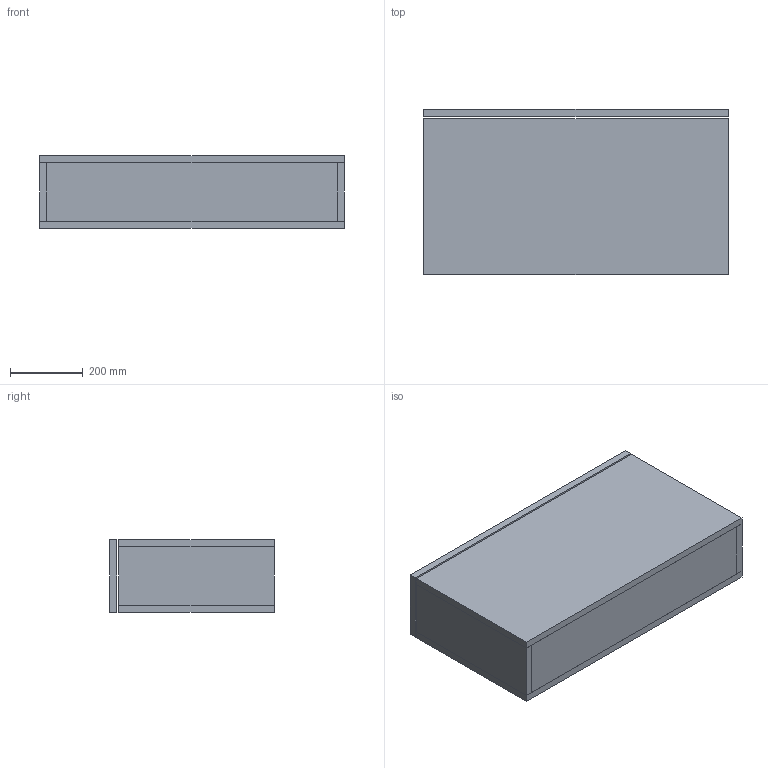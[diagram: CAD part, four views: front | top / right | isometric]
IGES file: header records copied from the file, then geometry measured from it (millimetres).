
Start section: START RECORD GO HERE.
Global section: file name: 8916_3D.igs; native system: DASSAULT SYSTEMES CATIA V5 R19 - www.3ds.com; preprocessor: CATIA Version 5 Release 19 SP 5 ; author: gioge; organization: LAPTOP-G94B6G74; date: 20201024.132346; units: millimetre
Bounding box: 840 x 455 x 200 mm (x, y, z)
Surface area: 2540800 mm2 (no closed solid volume)
Topology: 0 solids, 0 shells, 36 faces, 144 edges, 144 vertices
Faces by surface type: plane 36
